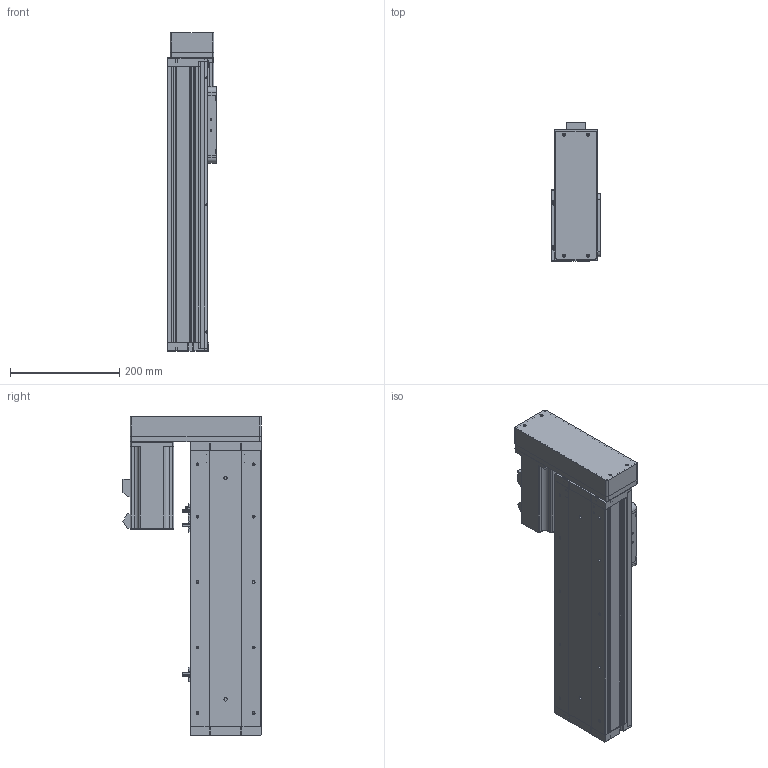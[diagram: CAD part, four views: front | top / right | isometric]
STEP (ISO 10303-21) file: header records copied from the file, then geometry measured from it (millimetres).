
FILE_DESCRIPTION (( 'STEP AP214' ), '1' );
FILE_NAME ('KSD130S-P2010-ML-CR-S300.STEP', '2019-09-24T05:37:51', ( '微软用户' ), ( '微软中国' ), 'SwSTEP 2.0', 'SolidWorks 2014', '' );
FILE_SCHEMA (( 'AUTOMOTIVE_DESIGN' ));
Length unit declared in the file: millimetre
Products named in the file (14): 130宽全封闭端盖丝杠; 130宽底板全封闭丝杠-300行程; KSD130S-P2010-ML-CR-S300; 侂狟750W侜督; 130宽模组保护罩左右折; 130宽模组马达安装板连板左右折丝杆; 感应片130宽全封闭; U倰嫖萇EEㄜSX672; 130遵裔啣揤啣1; 130宽盖板全封闭-300行程; 130宽滚珠螺姆安装板1防护罩; 130宽滚珠螺姆安装板1; 130宽侧板全封闭-300行程; 130宽全封闭马达安装板丝杠
Assembly tree (17 placements, depth 2):
  KSD130S-P2010-ML-CR-S300
    130宽底板全封闭丝杠-300行程
    130宽全封闭端盖丝杠
    130宽全封闭马达安装板丝杠
    130宽侧板全封闭-300行程  x2
    130宽滚珠螺姆安装板1
    130宽滚珠螺姆安装板1防护罩
    130宽盖板全封闭-300行程
    130遵裔啣揤啣1  x2
    U倰嫖萇EEㄜSX672  x3
    感应片130宽全封闭
    130宽模组马达安装板连板左右折丝杆
    130宽模组保护罩左右折
    侂狟750W侜督
Bounding box: 90 x 253 x 584.5 mm (x, y, z)
Volume: 2897286.2 mm3; surface area: 828297.6 mm2
Topology: 17 solids, 17 shells, 1428 faces, 3879 edges, 2448 vertices
Faces by surface type: plane 630, cylinder 608, cone 174, torus 8, sphere 8
Entity records: 42594 total; most frequent: DIRECTION 6548, CARTESIAN_POINT 6442, ORIENTED_EDGE 6096, EDGE_CURVE 3048, AXIS2_PLACEMENT_3D 2330, VERTEX_POINT 1978, VECTOR 1888, LINE 1888
